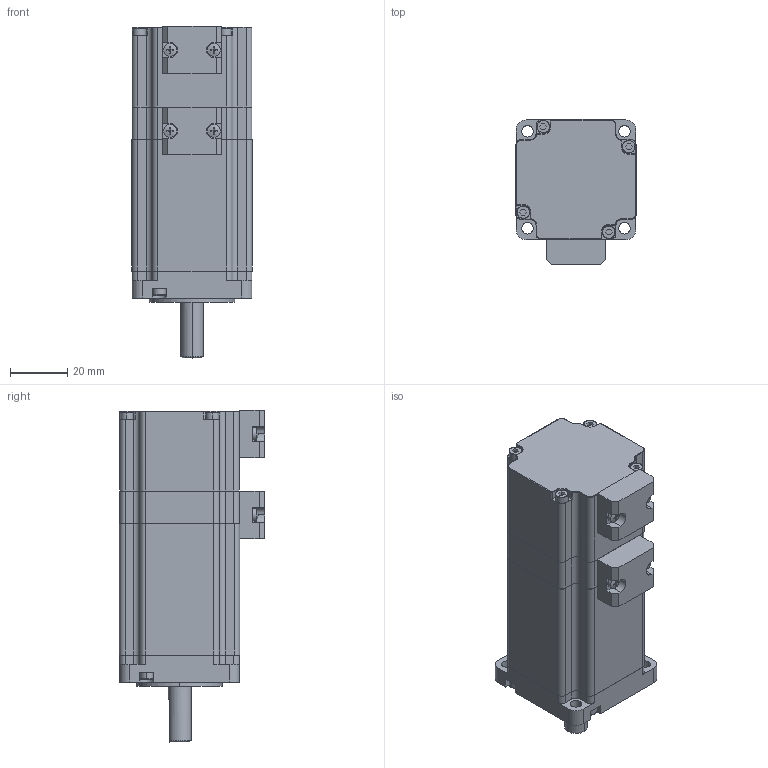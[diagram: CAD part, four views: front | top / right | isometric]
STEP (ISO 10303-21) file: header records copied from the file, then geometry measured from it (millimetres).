
FILE_DESCRIPTION (( 'STEP AP203' ), '1' );
FILE_NAME ('YK242EC67E1.STEP', '2021-07-01T10:34:28', ( 'Admin' ), ( '' ), 'SwSTEP 2.0', 'SolidWorks 2016', '' );
FILE_SCHEMA (( 'CONFIG_CONTROL_DESIGN' ));
Length unit declared in the file: millimetre
Products named in the file (10): YK242EC綴欶; YK242ECヶ裔蹟佪; YK242EC綴裔; YK242EC揤盄輸; YK242EC綴欶蹟佪; YK242EC隅赽-01; YK242EC粣郋; YK242EC揤盄輸蹟佪; YK242ECヶ裔; YK242EC67E1
Assembly tree (19 placements, depth 2):
  YK242EC67E1
    YK242ECヶ裔
    YK242EC隅赽-01
    YK242EC綴裔
    YK242EC綴欶
    YK242ECヶ裔蹟佪  x4
    YK242EC粣郋
    YK242EC綴欶蹟佪  x4
    YK242EC揤盄輸  x2
    YK242EC揤盄輸蹟佪  x4
Bounding box: 42.2 x 50.9 x 116.4 mm (x, y, z)
Volume: 87320.7 mm3; surface area: 51262.9 mm2
Topology: 19 solids, 19 shells, 693 faces, 1732 edges, 1108 vertices
Faces by surface type: plane 311, cylinder 276, bspline 50, cone 36, torus 20
Entity records: 17113 total; most frequent: CARTESIAN_POINT 3789, DIRECTION 2637, ORIENTED_EDGE 2452, EDGE_CURVE 1226, AXIS2_PLACEMENT_3D 997, VERTEX_POINT 795, LINE 643, VECTOR 643
